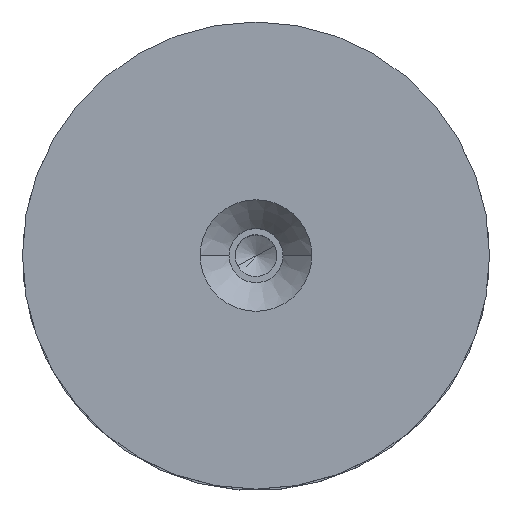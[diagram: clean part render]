
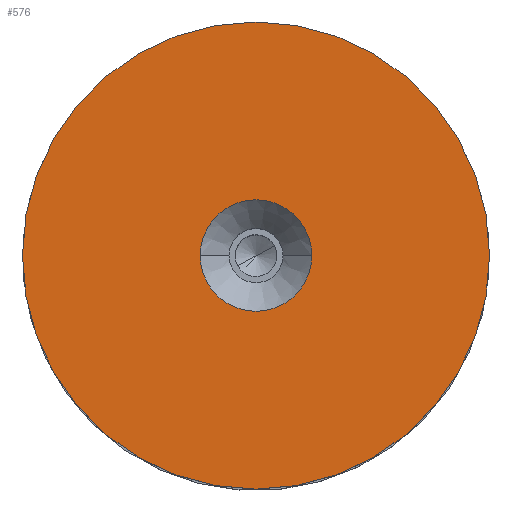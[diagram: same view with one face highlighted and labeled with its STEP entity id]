
A CAD part, top view. The second image highlights one B-rep face of the part: STEP entity #576.
In plain terms, the highlighted planar face has unit normal (0, 0, 1).
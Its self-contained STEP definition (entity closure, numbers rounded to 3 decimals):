
#18 = CIRCLE ( 'NONE', #121, 47.5 ) ;
#48 = CIRCLE ( 'NONE', #105, 47.5 ) ;
#59 = ORIENTED_EDGE ( 'NONE', *, *, #563, .T. ) ;
#65 = DIRECTION ( 'NONE',  ( 0., 0., 1. ) ) ;
#105 = AXIS2_PLACEMENT_3D ( 'NONE', #649, #176, #580 ) ;
#110 = CARTESIAN_POINT ( 'NONE',  ( -47.5, 0., 10. ) ) ;
#121 = AXIS2_PLACEMENT_3D ( 'NONE', #532, #65, #466 ) ;
#128 = CARTESIAN_POINT ( 'NONE',  ( 0., 0., 10. ) ) ;
#176 = DIRECTION ( 'NONE',  ( 0., 0., 1. ) ) ;
#194 = DIRECTION ( 'NONE',  ( 0., 0., -1. ) ) ;
#302 = AXIS2_PLACEMENT_3D ( 'NONE', #671, #194, #597 ) ;
#325 = DIRECTION ( 'NONE',  ( 1., 0., 0. ) ) ;
#328 = PLANE ( 'NONE',  #479 ) ;
#348 = CARTESIAN_POINT ( 'NONE',  ( 11.35, 0., 10. ) ) ;
#393 = CARTESIAN_POINT ( 'NONE',  ( 0., 0., 10. ) ) ;
#394 = DIRECTION ( 'NONE',  ( 0., 0., 1. ) ) ;
#434 = AXIS2_PLACEMENT_3D ( 'NONE', #393, #795, #325 ) ;
#448 = VERTEX_POINT ( 'NONE', #484 ) ;
#464 = EDGE_CURVE ( 'NONE', #833, #448, #18, .T. ) ;
#466 = DIRECTION ( 'NONE',  ( 1., 0., 0. ) ) ;
#479 = AXIS2_PLACEMENT_3D ( 'NONE', #128, #394, #800 ) ;
#484 = CARTESIAN_POINT ( 'NONE',  ( 47.5, 0., 10. ) ) ;
#491 = FACE_OUTER_BOUND ( 'NONE', #676, .T. ) ;
#508 = CIRCLE ( 'NONE', #302, 11.35 ) ;
#532 = CARTESIAN_POINT ( 'NONE',  ( 0., 0., 10. ) ) ;
#544 = ORIENTED_EDGE ( 'NONE', *, *, #464, .T. ) ;
#563 = EDGE_CURVE ( 'NONE', #589, #799, #508, .T. ) ;
#576 = ADVANCED_FACE ( 'NONE', ( #674, #491 ), #328, .T. ) ;
#580 = DIRECTION ( 'NONE',  ( 1., 0., 0. ) ) ;
#589 = VERTEX_POINT ( 'NONE', #669 ) ;
#597 = DIRECTION ( 'NONE',  ( 1., 0., 0. ) ) ;
#616 = EDGE_CURVE ( 'NONE', #799, #589, #652, .T. ) ;
#649 = CARTESIAN_POINT ( 'NONE',  ( 0., 0., 10. ) ) ;
#652 = CIRCLE ( 'NONE', #434, 11.35 ) ;
#669 = CARTESIAN_POINT ( 'NONE',  ( -11.35, 0., 10. ) ) ;
#671 = CARTESIAN_POINT ( 'NONE',  ( 0., 0., 10. ) ) ;
#674 = FACE_BOUND ( 'NONE', #776, .T. ) ;
#676 = EDGE_LOOP ( 'NONE', ( #544, #699 ) ) ;
#699 = ORIENTED_EDGE ( 'NONE', *, *, #804, .T. ) ;
#776 = EDGE_LOOP ( 'NONE', ( #811, #59 ) ) ;
#795 = DIRECTION ( 'NONE',  ( 0., 0., -1. ) ) ;
#799 = VERTEX_POINT ( 'NONE', #348 ) ;
#800 = DIRECTION ( 'NONE',  ( 1., 0., 0. ) ) ;
#804 = EDGE_CURVE ( 'NONE', #448, #833, #48, .T. ) ;
#811 = ORIENTED_EDGE ( 'NONE', *, *, #616, .T. ) ;
#833 = VERTEX_POINT ( 'NONE', #110 ) ;
